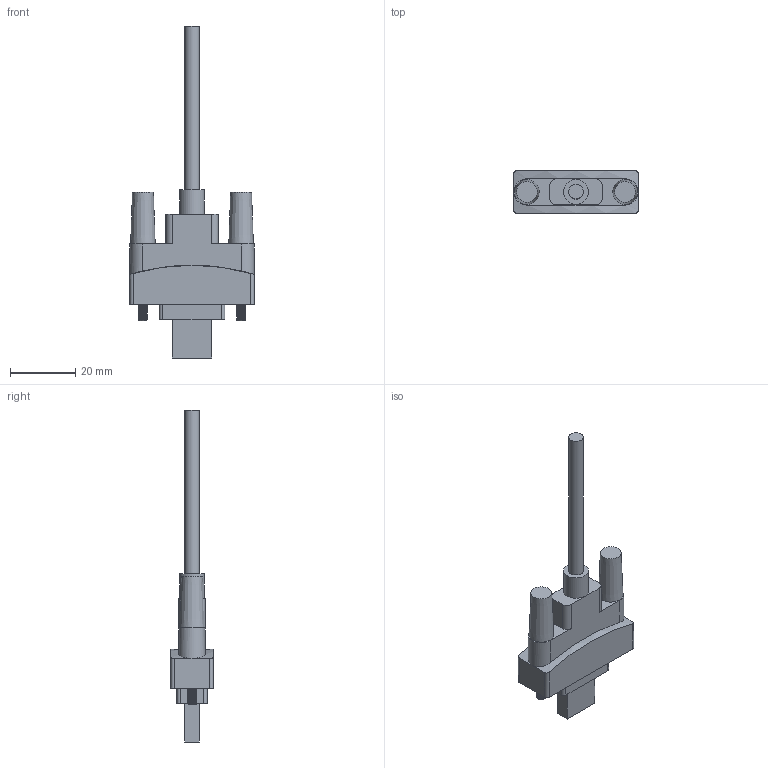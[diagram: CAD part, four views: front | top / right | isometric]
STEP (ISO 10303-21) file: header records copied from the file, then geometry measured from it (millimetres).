
FILE_DESCRIPTION(('FreeCAD Model'),'2;1');
FILE_NAME('Open CASCADE Shape Model','2026-06-08T11:59:31',(''),(''), 'Open CASCADE STEP processor 7.8','FreeCAD','Unknown');
FILE_SCHEMA(('AUTOMOTIVE_DESIGN { 1 0 10303 214 1 1 1 1 }'));
Length unit declared in the file: millimetre
Products named in the file (4): USB2_SCRAMAM_XXXX_P1; Body; M3-1; M3-2
Assembly tree (3 placements, depth 2):
  USB2_SCRAMAM_XXXX_P1
    Body
    M3-1
    M3-2
Bounding box: 38 x 13 x 101.45 mm (x, y, z)
Volume: 12310.6 mm3; surface area: 5773.9 mm2
Topology: 3 solids, 3 shells, 147 faces, 326 edges, 190 vertices
Faces by surface type: bspline 62, cylinder 38, plane 37, cone 10
Full cylindrical faces by diameter (mm): 3 x16, 4.5 x1, 7.6 x1
Entity records: 10410 total; most frequent: CARTESIAN_POINT 7655, ORIENTED_EDGE 648, DIRECTION 386, EDGE_CURVE 324, VERTEX_POINT 190, FACE_BOUND 154, EDGE_LOOP 154, ADVANCED_FACE 147
